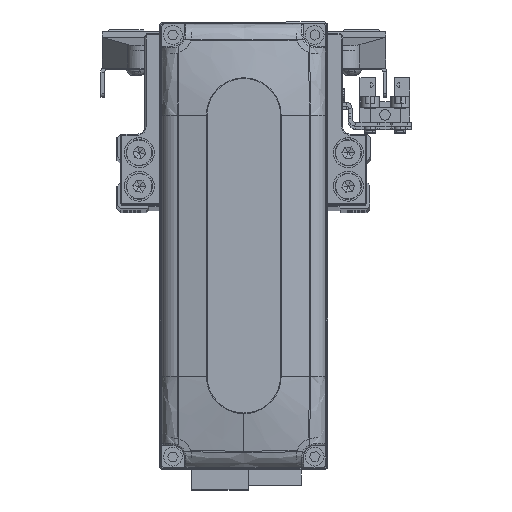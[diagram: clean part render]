
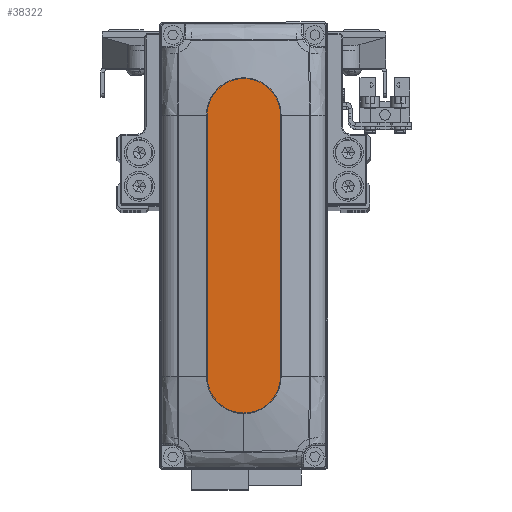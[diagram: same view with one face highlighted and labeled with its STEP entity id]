
A CAD part, top view. The second image highlights one B-rep face of the part: STEP entity #38322.
In plain terms, the highlighted planar face has unit normal (0, 0, 1).
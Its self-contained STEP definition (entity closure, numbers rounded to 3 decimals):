
#833 = ORIENTED_EDGE ( 'NONE', *, *, #7460, .T. ) ;
#928 = CARTESIAN_POINT ( 'NONE',  ( -35., 0., 28. ) ) ;
#1111 = DIRECTION ( 'NONE',  ( 1., 0., 0. ) ) ;
#2318 = CARTESIAN_POINT ( 'NONE',  ( 35., -10., 28. ) ) ;
#3042 = VERTEX_POINT ( 'NONE', #9371 ) ;
#3339 = VECTOR ( 'NONE', #11087, 1000. ) ;
#3500 = CARTESIAN_POINT ( 'NONE',  ( 35., 10., 28. ) ) ;
#4446 = DIRECTION ( 'NONE',  ( -1., 0., 0. ) ) ;
#5362 = VERTEX_POINT ( 'NONE', #3500 ) ;
#5824 = DIRECTION ( 'NONE',  ( 1., 0., 0. ) ) ;
#6280 = EDGE_CURVE ( 'NONE', #5362, #12340, #21783, .T. ) ;
#7460 = EDGE_CURVE ( 'NONE', #30060, #24771, #27969, .T. ) ;
#8303 = AXIS2_PLACEMENT_3D ( 'NONE', #18415, #32334, #1111 ) ;
#9262 = PLANE ( 'NONE',  #31449 ) ;
#9371 = CARTESIAN_POINT ( 'NONE',  ( -35., -10., 28. ) ) ;
#11087 = DIRECTION ( 'NONE',  ( 1., 0., 0. ) ) ;
#12340 = VERTEX_POINT ( 'NONE', #44944 ) ;
#13772 = DIRECTION ( 'NONE',  ( 1., 0., 0. ) ) ;
#14846 = EDGE_LOOP ( 'NONE', ( #35269, #27043, #19034, #833, #26753 ) ) ;
#14850 = DIRECTION ( 'NONE',  ( 0., 0., 1. ) ) ;
#18415 = CARTESIAN_POINT ( 'NONE',  ( 35., 0., 28. ) ) ;
#19034 = ORIENTED_EDGE ( 'NONE', *, *, #24701, .T. ) ;
#19191 = CIRCLE ( 'NONE', #44680, 10. ) ;
#19257 = VECTOR ( 'NONE', #4446, 1000. ) ;
#20230 = CARTESIAN_POINT ( 'NONE',  ( 45., 0., 28. ) ) ;
#20804 = EDGE_CURVE ( 'NONE', #24771, #5362, #19191, .T. ) ;
#21380 = EDGE_CURVE ( 'NONE', #12340, #3042, #32335, .T. ) ;
#21783 = LINE ( 'NONE', #35689, #19257 ) ;
#23185 = CARTESIAN_POINT ( 'NONE',  ( 0., 0., 28. ) ) ;
#24701 = EDGE_CURVE ( 'NONE', #3042, #30060, #28432, .T. ) ;
#24771 = VERTEX_POINT ( 'NONE', #20230 ) ;
#26753 = ORIENTED_EDGE ( 'NONE', *, *, #20804, .T. ) ;
#27043 = ORIENTED_EDGE ( 'NONE', *, *, #21380, .T. ) ;
#27969 = CIRCLE ( 'NONE', #8303, 10. ) ;
#28432 = LINE ( 'NONE', #42344, #3339 ) ;
#28787 = DIRECTION ( 'NONE',  ( 1., 0., 0. ) ) ;
#30060 = VERTEX_POINT ( 'NONE', #2318 ) ;
#31131 = CARTESIAN_POINT ( 'NONE',  ( 35., 0., 28. ) ) ;
#31449 = AXIS2_PLACEMENT_3D ( 'NONE', #23185, #37090, #5824 ) ;
#32334 = DIRECTION ( 'NONE',  ( 0., 0., 1. ) ) ;
#32335 = CIRCLE ( 'NONE', #38188, 10. ) ;
#35269 = ORIENTED_EDGE ( 'NONE', *, *, #6280, .T. ) ;
#35689 = CARTESIAN_POINT ( 'NONE',  ( -35., 10., 28. ) ) ;
#37090 = DIRECTION ( 'NONE',  ( 0., 0., 1. ) ) ;
#38188 = AXIS2_PLACEMENT_3D ( 'NONE', #928, #14850, #28787 ) ;
#38322 = ADVANCED_FACE ( 'NONE', ( #40527 ), #9262, .T. ) ;
#40527 = FACE_OUTER_BOUND ( 'NONE', #14846, .T. ) ;
#42344 = CARTESIAN_POINT ( 'NONE',  ( -35., -10., 28. ) ) ;
#44680 = AXIS2_PLACEMENT_3D ( 'NONE', #31131, #45052, #13772 ) ;
#44944 = CARTESIAN_POINT ( 'NONE',  ( -35., 10., 28. ) ) ;
#45052 = DIRECTION ( 'NONE',  ( 0., 0., 1. ) ) ;
